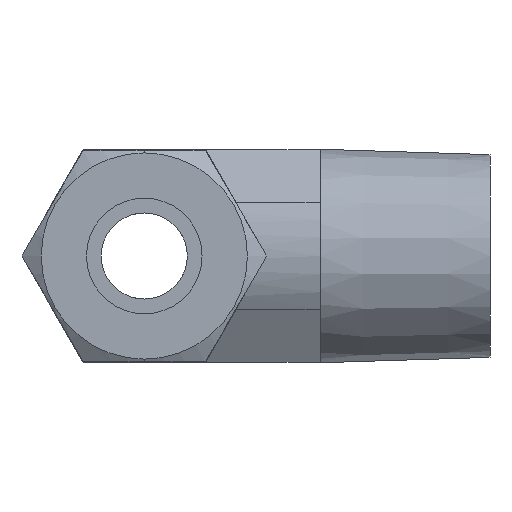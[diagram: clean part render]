
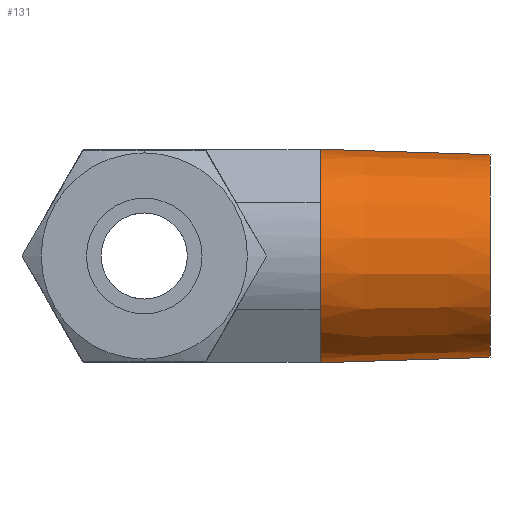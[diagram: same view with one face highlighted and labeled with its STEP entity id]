
A CAD part, left-side view. The second image highlights one B-rep face of the part: STEP entity #131.
In plain terms, the highlighted conical face has half-angle 1.8 degrees and reference radius 8.55 mm.
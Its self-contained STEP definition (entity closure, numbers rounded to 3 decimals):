
#77 = EDGE_LOOP ( 'NONE', ( #78, #82, #85, #94, #97, #100, #790, #793 ) ) ;
#78 = ORIENTED_EDGE ( 'NONE', *, *, #79, .F. ) ;
#79 = EDGE_CURVE ( 'NONE', #80, #81, #931, .T. ) ;
#80 = VERTEX_POINT ( 'NONE', #989 ) ;
#81 = VERTEX_POINT ( 'NONE', #988 ) ;
#82 = ORIENTED_EDGE ( 'NONE', *, *, #83, .T. ) ;
#83 = EDGE_CURVE ( 'NONE', #80, #84, #987, .T. ) ;
#84 = VERTEX_POINT ( 'NONE', #983 ) ;
#85 = ORIENTED_EDGE ( 'NONE', *, *, #92, .T. ) ;
#92 = EDGE_CURVE ( 'NONE', #84, #93, #971, .T. ) ;
#93 = VERTEX_POINT ( 'NONE', #966 ) ;
#94 = ORIENTED_EDGE ( 'NONE', *, *, #95, .T. ) ;
#95 = EDGE_CURVE ( 'NONE', #93, #96, #965, .T. ) ;
#96 = VERTEX_POINT ( 'NONE', #960 ) ;
#97 = ORIENTED_EDGE ( 'NONE', *, *, #98, .T. ) ;
#98 = EDGE_CURVE ( 'NONE', #96, #99, #1024, .T. ) ;
#99 = VERTEX_POINT ( 'NONE', #1019 ) ;
#100 = ORIENTED_EDGE ( 'NONE', *, *, #101, .T. ) ;
#101 = EDGE_CURVE ( 'NONE', #99, #102, #1018, .T. ) ;
#102 = VERTEX_POINT ( 'NONE', #1013 ) ;
#131 = ADVANCED_FACE ( 'NONE', ( #1073 ), #1072, .T. ) ;
#790 = ORIENTED_EDGE ( 'NONE', *, *, #791, .T. ) ;
#791 = EDGE_CURVE ( 'NONE', #102, #792, #2271, .T. ) ;
#792 = VERTEX_POINT ( 'NONE', #2314 ) ;
#793 = ORIENTED_EDGE ( 'NONE', *, *, #794, .F. ) ;
#794 = EDGE_CURVE ( 'NONE', #81, #792, #2313, .T. ) ;
#930 = CARTESIAN_POINT ( 'NONE',  ( 0., -28.5, 0. ) ) ;
#931 = CIRCLE ( 'NONE', #992, 8.358 ) ;
#960 = CARTESIAN_POINT ( 'NONE',  ( -7.118, -14.5, 5.172 ) ) ;
#961 = DIRECTION ( 'NONE',  ( 0., 0., -1. ) ) ;
#962 = DIRECTION ( 'NONE',  ( 0., -1., 0. ) ) ;
#963 = CARTESIAN_POINT ( 'NONE',  ( 0., -14.5, 0. ) ) ;
#964 = AXIS2_PLACEMENT_3D ( 'NONE', #963, #962, #961 ) ;
#965 = CIRCLE ( 'NONE', #964, 8.798 ) ;
#966 = CARTESIAN_POINT ( 'NONE',  ( -0.92, -14.5, 8.75 ) ) ;
#967 = DIRECTION ( 'NONE',  ( 0., 0., -1. ) ) ;
#968 = DIRECTION ( 'NONE',  ( 0., -1., 0. ) ) ;
#969 = CARTESIAN_POINT ( 'NONE',  ( 0., -14.5, 0. ) ) ;
#970 = AXIS2_PLACEMENT_3D ( 'NONE', #969, #968, #967 ) ;
#971 = CIRCLE ( 'NONE', #970, 8.798 ) ;
#983 = CARTESIAN_POINT ( 'NONE',  ( 0., -14.5, 8.798 ) ) ;
#984 = DIRECTION ( 'NONE',  ( 0., 1., 0.031 ) ) ;
#985 = VECTOR ( 'NONE', #984, 1000. ) ;
#986 = CARTESIAN_POINT ( 'NONE',  ( 0., -22.4, 8.55 ) ) ;
#987 = LINE ( 'NONE', #986, #985 ) ;
#988 = CARTESIAN_POINT ( 'NONE',  ( 0., -28.5, -8.358 ) ) ;
#989 = CARTESIAN_POINT ( 'NONE',  ( 0., -28.5, 8.358 ) ) ;
#990 = DIRECTION ( 'NONE',  ( 0., 0., -1. ) ) ;
#991 = DIRECTION ( 'NONE',  ( 0., -1., 0. ) ) ;
#992 = AXIS2_PLACEMENT_3D ( 'NONE', #930, #991, #990 ) ;
#1013 = CARTESIAN_POINT ( 'NONE',  ( -0.92, -14.5, -8.75 ) ) ;
#1014 = DIRECTION ( 'NONE',  ( 0., 0., -1. ) ) ;
#1015 = DIRECTION ( 'NONE',  ( 0., -1., 0. ) ) ;
#1016 = CARTESIAN_POINT ( 'NONE',  ( 0., -14.5, 0. ) ) ;
#1017 = AXIS2_PLACEMENT_3D ( 'NONE', #1016, #1015, #1014 ) ;
#1018 = CIRCLE ( 'NONE', #1017, 8.798 ) ;
#1019 = CARTESIAN_POINT ( 'NONE',  ( -7.118, -14.5, -5.172 ) ) ;
#1020 = DIRECTION ( 'NONE',  ( 0., 0., -1. ) ) ;
#1021 = DIRECTION ( 'NONE',  ( 0., -1., 0. ) ) ;
#1022 = CARTESIAN_POINT ( 'NONE',  ( 0., -14.5, 0. ) ) ;
#1023 = AXIS2_PLACEMENT_3D ( 'NONE', #1022, #1021, #1020 ) ;
#1024 = CIRCLE ( 'NONE', #1023, 8.798 ) ;
#1070 = CARTESIAN_POINT ( 'NONE',  ( 0., -22.4, 0. ) ) ;
#1072 = CONICAL_SURFACE ( 'NONE', #1110, 8.55, 0.031 ) ;
#1073 = FACE_OUTER_BOUND ( 'NONE', #77, .T. ) ;
#1108 = DIRECTION ( 'NONE',  ( 0., 0., -1. ) ) ;
#1109 = DIRECTION ( 'NONE',  ( 0., 1., 0. ) ) ;
#1110 = AXIS2_PLACEMENT_3D ( 'NONE', #1070, #1109, #1108 ) ;
#2269 = DIRECTION ( 'NONE',  ( 0., -1., 0. ) ) ;
#2270 = AXIS2_PLACEMENT_3D ( 'NONE', #2272, #2269, #2315 ) ;
#2271 = CIRCLE ( 'NONE', #2270, 8.798 ) ;
#2272 = CARTESIAN_POINT ( 'NONE',  ( 0., -14.5, 0. ) ) ;
#2310 = DIRECTION ( 'NONE',  ( 0., 1., -0.031 ) ) ;
#2311 = VECTOR ( 'NONE', #2310, 1000. ) ;
#2312 = CARTESIAN_POINT ( 'NONE',  ( 0., -22.4, -8.55 ) ) ;
#2313 = LINE ( 'NONE', #2312, #2311 ) ;
#2314 = CARTESIAN_POINT ( 'NONE',  ( 0., -14.5, -8.798 ) ) ;
#2315 = DIRECTION ( 'NONE',  ( 0., 0., -1. ) ) ;
